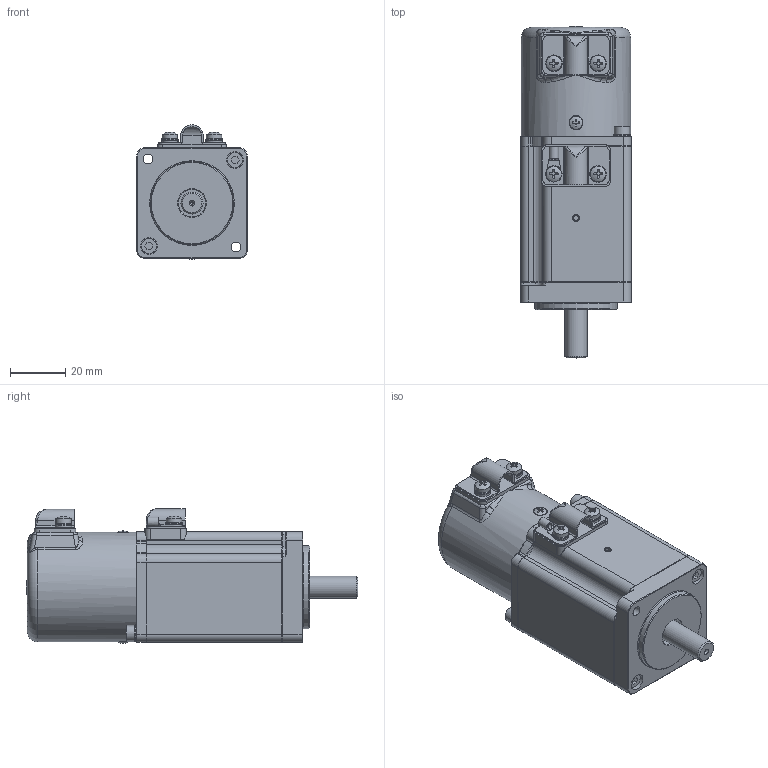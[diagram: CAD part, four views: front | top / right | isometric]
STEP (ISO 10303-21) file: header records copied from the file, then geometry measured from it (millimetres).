
FILE_DESCRIPTION(('STEP AP203'),'1');
FILE_NAME('B300G-D2R.stp','2021-04-08T01:30:22',(' '),(' '),'Spatial InterOp 3D',' ',' ');
FILE_SCHEMA(('CONFIG_CONTROL_DESIGN'));
Length unit declared in the file: millimetre
Products named in the file (1): B300G-D2R
Bounding box: 40 x 120 x 48.58 mm (x, y, z)
Volume: 141874.4 mm3; surface area: 21317.1 mm2
Topology: 1 solids, 5 shells, 590 faces, 1487 edges, 922 vertices
Faces by surface type: plane 272, cylinder 165, cone 72, torus 40, bspline 27, offset 8, sphere 4, revolution 2
Full cylindrical faces by diameter (mm): 1 x1, 2 x1, 2.5 x5, 3 x8, 3.2 x6, 3.4 x1, 3.5 x8, 4.7 x2, 5 x1, 5.5 x4, 5.6 x4, 6 x5, 7 x2, 8 x1, 10 x1, 30 x1, 39.6 x1
Entity records: 20738 total; most frequent: CARTESIAN_POINT 7356, DIRECTION 2725, ORIENTED_EDGE 2716, EDGE_CURVE 1358, AXIS2_PLACEMENT_3D 1070, VERTEX_POINT 893, EDGE_LOOP 722, FACE_OUTER_BOUND 650
